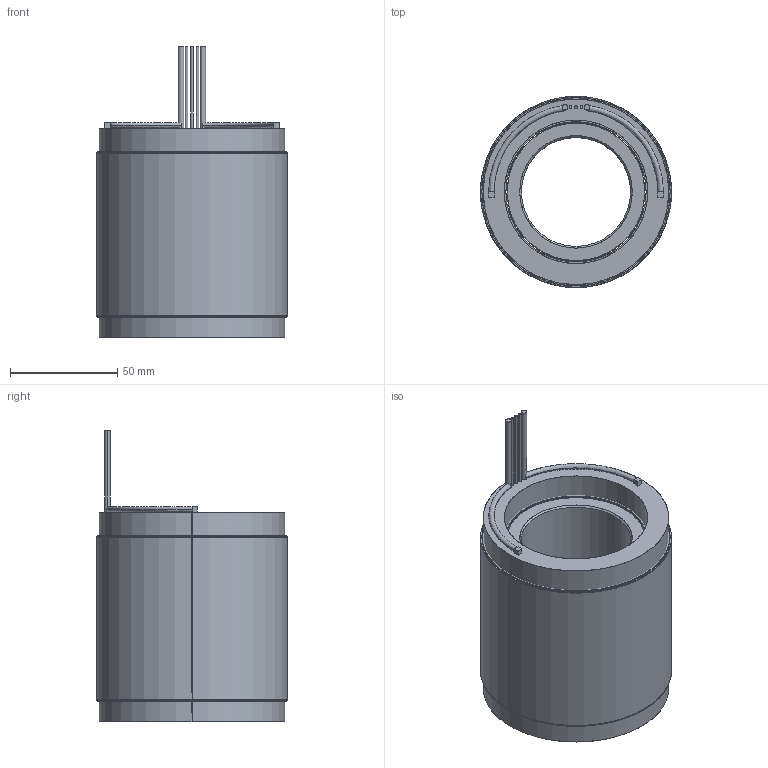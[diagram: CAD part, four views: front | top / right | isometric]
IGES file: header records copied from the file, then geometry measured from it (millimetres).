
Start section: SolidWorks IGES file using analytic representation for surfaces
Global section: file name: \\fs01.aveox.local\user documents\eng\My Documents\STANDARD STATOR ROTOR SETS\Standard rotor and stator set released\NEW DIRECT DRIVE MOTOR\3.5 OD 18S16P\6100378-05.IGS; native system: SolidWorks 2016; preprocessor: SolidWorks 2016; author: eng; date: 200623.085850; units: inch
Bounding box: 88.9 x 88.9 x 135.64 mm (x, y, z)
Surface area: 148727.1 mm2 (no closed solid volume)
Topology: 0 solids, 0 shells, 81 faces, 2376 edges, 2376 vertices
Faces by surface type: revolution 42, bspline 39
